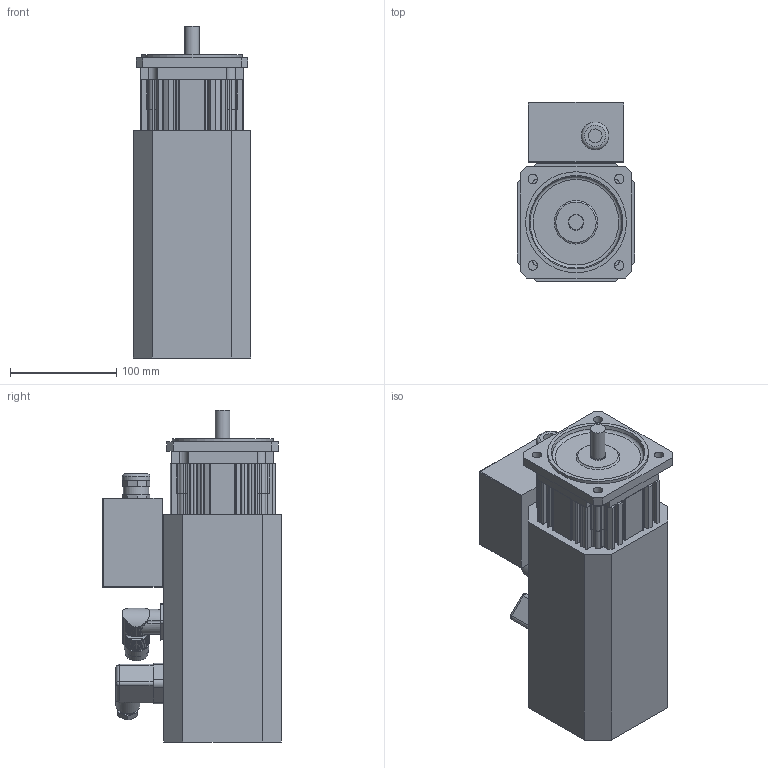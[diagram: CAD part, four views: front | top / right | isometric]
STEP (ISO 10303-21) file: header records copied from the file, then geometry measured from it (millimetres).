
FILE_DESCRIPTION(/* description */ (''),/* implementation_level */ '2;1');
FILE_NAME(/* name */ 'KSA444_FS_Ix',/* time_stamp */ '2009-02-26T14:19:40+01:00',/* author */ (''),/* organization */ (''),/* preprocessor_version */ 'ST-DEVELOPER v8',/* originating_system */ 'UNIGRAPHICS SOLUTIONS - UNIGRAPHICS 18.0',/* authorisation */ '');
FILE_SCHEMA (('AUTOMOTIVE_DESIGN { 1 2 10303 214 0 1 1 1 }'));
Length unit declared in the file: millimetre
Products named in the file (8): 0280391350_0; 014146_0; 014145_0; Winkelflanschdose_0; Lagersch4AS_0; 089105X_0; Klemmenkasten_0; KSA444_FS_Ix_0
Assembly tree (7 placements, depth 3):
  KSA444_FS_Ix_0
    089105X_0
    Lagersch4AS_0
    Winkelflanschdose_0
    Klemmenkasten_0
      0280391350_0
    014145_0
    014146_0
Bounding box: 110.7 x 168.2 x 312.5 mm (x, y, z)
Volume: 3498115.8 mm3; surface area: 324770.3 mm2
Topology: 8 solids, 8 shells, 705 faces, 1944 edges, 1275 vertices
Faces by surface type: cylinder 402, plane 279, cone 8, sphere 8, torus 4, bspline 4
Full cylindrical faces by diameter (mm): 3.2 x1, 3.5 x4, 4.5 x1, 5 x2, 6.5 x4, 9 x4, 13 x2, 14 x1, 15 x1, 16 x1, 17 x1, 18 x1, 20 x2, 21 x1, 21.5 x1, 22.5 x1, 23 x2, 24 x1, 26 x1, 89.6 x2, 91 x1, 95 x1
Entity records: 22938 total; most frequent: CARTESIAN_POINT 4603, DIRECTION 3854, ORIENTED_EDGE 3760, EDGE_CURVE 1880, AXIS2_PLACEMENT_3D 1421, VERTEX_POINT 1263, LINE 1012, VECTOR 1012
